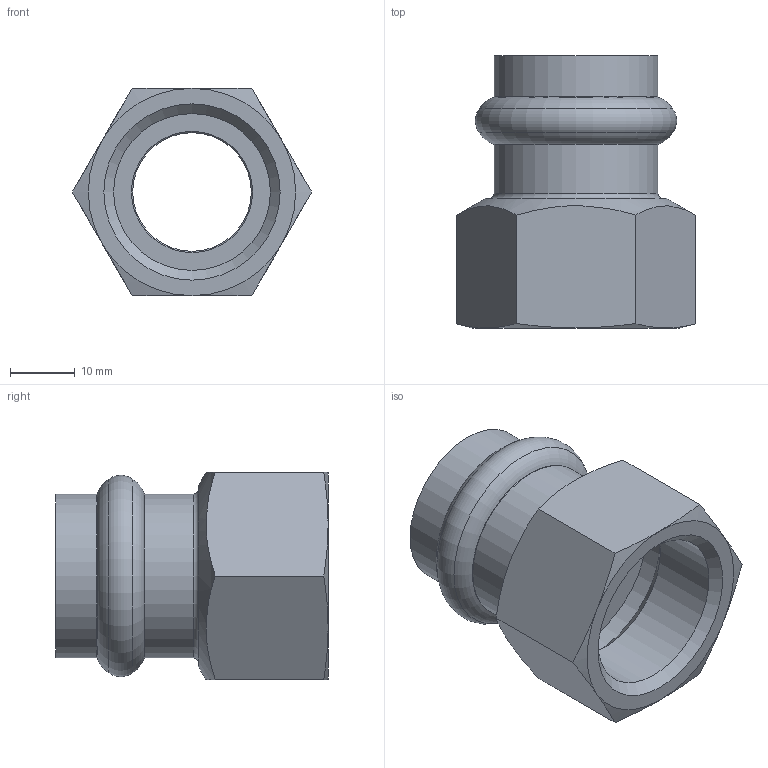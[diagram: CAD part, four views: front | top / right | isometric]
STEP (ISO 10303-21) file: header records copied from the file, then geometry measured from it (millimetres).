
FILE_DESCRIPTION(/* description */ (''),/* implementation_level */ '2;1');
FILE_NAME(/* name */ 'C:\Users\Vault\Desktop\Articoli_INOXPRES UNIKO\190_INOXPRES_UNIKO\190304022U_Inoxpres_Uniko.stp',/* time_stamp */ '2022-10-06T11:37:06+02:00',/* author */ ('Vault'),/* organization */ ('Raccorderie metalliche s.p.a.'),/* preprocessor_version */ 'ST-DEVELOPER v18.1',/* originating_system */ 'Autodesk Inventor 2020',/* authorisation */ 'Raccorderie metalliche s.p.a.');
FILE_SCHEMA (('AUTOMOTIVE_DESIGN { 1 0 10303 214 3 1 1 }'));
Length unit declared in the file: millimetre
Products named in the file (1): 190304022V_Inoxpres_Uniko
Bounding box: 36.95 x 42 x 32 mm (x, y, z)
Volume: 11785.2 mm3; surface area: 8591.9 mm2
Topology: 1 solids, 1 shells, 45 faces, 112 edges, 74 vertices
Faces by surface type: plane 13, cone 13, torus 10, cylinder 9
Full cylindrical faces by diameter (mm): 18.3 x1, 22.3 x4, 24.2 x1, 25.3 x2, 28 x1
Entity records: 1407 total; most frequent: CARTESIAN_POINT 270, DIRECTION 256, ORIENTED_EDGE 224, AXIS2_PLACEMENT_3D 117, EDGE_CURVE 112, VERTEX_POINT 74, CIRCLE 71, EDGE_LOOP 52
